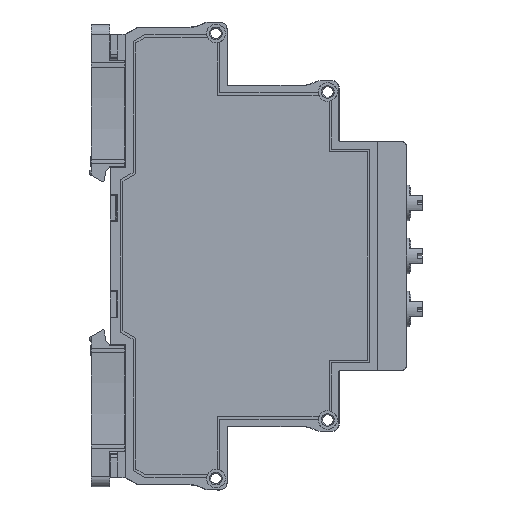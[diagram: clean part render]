
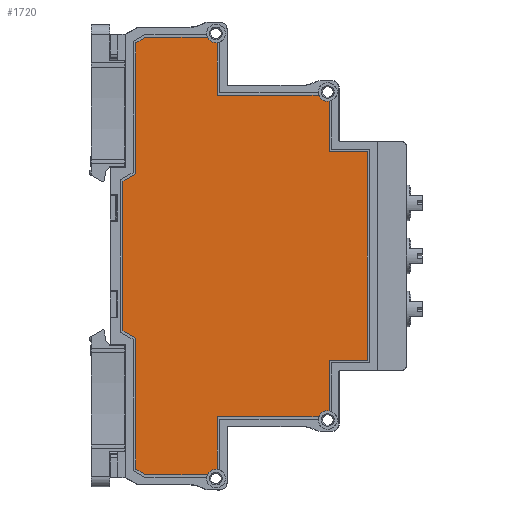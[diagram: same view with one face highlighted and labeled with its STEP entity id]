
A CAD part, front view. The second image highlights one B-rep face of the part: STEP entity #1720.
In plain terms, the highlighted planar face has unit normal (0, -1, 0) as drawn and (1, 0, 0) by its records, which use the part's own axes.
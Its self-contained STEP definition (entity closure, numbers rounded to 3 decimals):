
#1720=ADVANCED_FACE('',(#30765),#30767,.T.);
#30765=FACE_BOUND('',#30766,.T.);
#30766=EDGE_LOOP('',(#54471,#54472,#54473,#54474,#54475,#54476,#54477,#54478,#54479,
#54480,#54481,#54482,#54483,#54484,#54485,#54486,#54487,#54488,#54489,#54490,#54491,
#54492));
#30767=PLANE('',#30768);
#30768=AXIS2_PLACEMENT_3D('',#30769,#30770,#30771);
#30769=CARTESIAN_POINT('',(6.5,0.,0.));
#30770=DIRECTION('',(1.,0.,0.));
#30771=DIRECTION('',(0.,0.,-1.));
#54471=ORIENTED_EDGE('',*,*,#73263,.F.);
#54472=ORIENTED_EDGE('',*,*,#73264,.T.);
#54473=ORIENTED_EDGE('',*,*,#73181,.F.);
#54474=ORIENTED_EDGE('',*,*,#73265,.T.);
#54475=ORIENTED_EDGE('',*,*,#73266,.T.);
#54476=ORIENTED_EDGE('',*,*,#73267,.T.);
#54477=ORIENTED_EDGE('',*,*,#73268,.T.);
#54478=ORIENTED_EDGE('',*,*,#73269,.T.);
#54479=ORIENTED_EDGE('',*,*,#73165,.F.);
#54480=ORIENTED_EDGE('',*,*,#73270,.F.);
#54481=ORIENTED_EDGE('',*,*,#73271,.T.);
#54482=ORIENTED_EDGE('',*,*,#73175,.F.);
#54483=ORIENTED_EDGE('',*,*,#73272,.T.);
#54484=ORIENTED_EDGE('',*,*,#73273,.F.);
#54485=ORIENTED_EDGE('',*,*,#73274,.T.);
#54486=ORIENTED_EDGE('',*,*,#73275,.T.);
#54487=ORIENTED_EDGE('',*,*,#73276,.T.);
#54488=ORIENTED_EDGE('',*,*,#73277,.T.);
#54489=ORIENTED_EDGE('',*,*,#73278,.T.);
#54490=ORIENTED_EDGE('',*,*,#73279,.F.);
#54491=ORIENTED_EDGE('',*,*,#73280,.T.);
#54492=ORIENTED_EDGE('',*,*,#73191,.F.);
#73165=EDGE_CURVE('',#82350,#82335,#82352,.T.);
#73175=EDGE_CURVE('',#82370,#82355,#82372,.T.);
#73181=EDGE_CURVE('',#82382,#82384,#82385,.T.);
#73191=EDGE_CURVE('',#82402,#82404,#82405,.T.);
#73263=EDGE_CURVE('',#82543,#82402,#82544,.T.);
#73264=EDGE_CURVE('',#82543,#82384,#82545,.T.);
#73265=EDGE_CURVE('',#82382,#82546,#82547,.T.);
#73266=EDGE_CURVE('',#82546,#82548,#82549,.T.);
#73267=EDGE_CURVE('',#82548,#82550,#82551,.T.);
#73268=EDGE_CURVE('',#82550,#82552,#82553,.T.);
#73269=EDGE_CURVE('',#82552,#82335,#82554,.T.);
#73270=EDGE_CURVE('',#82555,#82350,#82556,.T.);
#73271=EDGE_CURVE('',#82555,#82355,#82557,.T.);
#73272=EDGE_CURVE('',#82370,#82558,#82559,.T.);
#73273=EDGE_CURVE('',#82560,#82558,#82561,.T.);
#73274=EDGE_CURVE('',#82560,#82562,#82563,.T.);
#73275=EDGE_CURVE('',#82562,#82564,#82565,.T.);
#73276=EDGE_CURVE('',#82564,#82566,#82567,.T.);
#73277=EDGE_CURVE('',#82566,#82568,#82569,.T.);
#73278=EDGE_CURVE('',#82568,#82570,#82571,.T.);
#73279=EDGE_CURVE('',#82572,#82570,#82573,.T.);
#73280=EDGE_CURVE('',#82572,#82404,#82574,.T.);
#82335=VERTEX_POINT('',#98201);
#82350=VERTEX_POINT('',#98234);
#82352=CIRCLE('',#98238,1.85);
#82355=VERTEX_POINT('',#98247);
#82370=VERTEX_POINT('',#98280);
#82372=CIRCLE('',#98284,1.85);
#82382=VERTEX_POINT('',#98308);
#82384=VERTEX_POINT('',#98312);
#82385=CIRCLE('',#98313,1.85);
#82402=VERTEX_POINT('',#98354);
#82404=VERTEX_POINT('',#98358);
#82405=CIRCLE('',#98359,1.85);
#82543=VERTEX_POINT('',#98663);
#82544=LINE('',#98664,#98665);
#82545=LINE('',#98667,#98668);
#82546=VERTEX_POINT('',#98670);
#82547=LINE('',#98671,#98672);
#82548=VERTEX_POINT('',#98674);
#82549=LINE('',#98675,#98676);
#82550=VERTEX_POINT('',#98678);
#82551=LINE('',#98679,#98680);
#82552=VERTEX_POINT('',#98682);
#82553=LINE('',#98683,#98684);
#82554=LINE('',#98686,#98687);
#82555=VERTEX_POINT('',#98689);
#82556=LINE('',#98690,#98691);
#82557=LINE('',#98693,#98694);
#82558=VERTEX_POINT('',#98696);
#82559=LINE('',#98697,#98698);
#82560=VERTEX_POINT('',#98700);
#82561=LINE('',#98701,#98702);
#82562=VERTEX_POINT('',#98704);
#82563=LINE('',#98705,#98706);
#82564=VERTEX_POINT('',#98708);
#82565=LINE('',#98709,#98710);
#82566=VERTEX_POINT('',#98712);
#82567=LINE('',#98713,#98714);
#82568=VERTEX_POINT('',#98716);
#82569=LINE('',#98717,#98718);
#82570=VERTEX_POINT('',#98720);
#82571=LINE('',#98721,#98722);
#82572=VERTEX_POINT('',#98724);
#82573=LINE('',#98725,#98726);
#82574=LINE('',#98728,#98729);
#98201=CARTESIAN_POINT('',(6.5,-30.541,38.985));
#98234=CARTESIAN_POINT('',(6.5,-31.7,37.015));
#98238=AXIS2_PLACEMENT_3D('',#98239,#98240,#98241);
#98239=CARTESIAN_POINT('',(6.5,-32.375,38.738));
#98240=DIRECTION('',(1.,0.,0.));
#98241=DIRECTION('',(0.,0.365,-0.931));
#98247=CARTESIAN_POINT('',(6.5,-42.103,16.897));
#98280=CARTESIAN_POINT('',(6.5,-43.2,14.953));
#98284=AXIS2_PLACEMENT_3D('',#98285,#98286,#98287);
#98285=CARTESIAN_POINT('',(6.5,-43.937,16.65));
#98286=DIRECTION('',(1.,0.,0.));
#98287=DIRECTION('',(0.,0.398,-0.917));
#98308=CARTESIAN_POINT('',(6.5,30.541,38.985));
#98312=CARTESIAN_POINT('',(6.5,31.7,37.015));
#98313=AXIS2_PLACEMENT_3D('',#98314,#98315,#98316);
#98314=CARTESIAN_POINT('',(6.5,32.375,38.738));
#98315=DIRECTION('',(1.,0.,0.));
#98316=DIRECTION('',(0.,-0.991,0.134));
#98354=CARTESIAN_POINT('',(6.5,42.103,16.897));
#98358=CARTESIAN_POINT('',(6.5,43.2,14.953));
#98359=AXIS2_PLACEMENT_3D('',#98360,#98361,#98362);
#98360=CARTESIAN_POINT('',(6.5,43.937,16.65));
#98361=DIRECTION('',(1.,0.,0.));
#98362=DIRECTION('',(0.,-0.991,0.134));
#98663=CARTESIAN_POINT('',(6.5,31.7,16.897));
#98664=CARTESIAN_POINT('',(6.5,31.7,16.897));
#98665=VECTOR('',#98666,1.);
#98666=DIRECTION('',(0.,1.,0.));
#98667=CARTESIAN_POINT('',(6.5,31.7,16.897));
#98668=VECTOR('',#98669,1.);
#98669=DIRECTION('',(0.,0.,1.));
#98670=CARTESIAN_POINT('',(6.5,20.6,38.985));
#98671=CARTESIAN_POINT('',(6.5,30.541,38.985));
#98672=VECTOR('',#98673,1.);
#98673=DIRECTION('',(0.,-1.,0.));
#98674=CARTESIAN_POINT('',(6.5,20.6,46.53));
#98675=CARTESIAN_POINT('',(6.5,20.6,38.985));
#98676=VECTOR('',#98677,1.);
#98677=DIRECTION('',(0.,0.,1.));
#98678=CARTESIAN_POINT('',(6.5,-20.6,46.53));
#98679=CARTESIAN_POINT('',(6.5,20.6,46.53));
#98680=VECTOR('',#98681,1.);
#98681=DIRECTION('',(0.,-1.,0.));
#98682=CARTESIAN_POINT('',(6.5,-20.6,38.985));
#98683=CARTESIAN_POINT('',(6.5,-20.6,46.53));
#98684=VECTOR('',#98685,1.);
#98685=DIRECTION('',(0.,0.,-1.));
#98686=CARTESIAN_POINT('',(6.5,-20.6,38.985));
#98687=VECTOR('',#98688,1.);
#98688=DIRECTION('',(0.,-1.,0.));
#98689=CARTESIAN_POINT('',(6.5,-31.7,16.897));
#98690=CARTESIAN_POINT('',(6.5,-31.7,16.897));
#98691=VECTOR('',#98692,1.);
#98692=DIRECTION('',(0.,0.,1.));
#98693=CARTESIAN_POINT('',(6.5,-31.7,16.897));
#98694=VECTOR('',#98695,1.);
#98695=DIRECTION('',(0.,-1.,0.));
#98696=CARTESIAN_POINT('',(6.5,-43.2,2.761));
#98697=CARTESIAN_POINT('',(6.5,-43.2,14.953));
#98698=VECTOR('',#98699,1.);
#98699=DIRECTION('',(0.,0.,-1.));
#98700=CARTESIAN_POINT('',(6.5,-42.068,0.8));
#98701=CARTESIAN_POINT('',(6.5,-42.068,0.8));
#98702=VECTOR('',#98703,1.);
#98703=DIRECTION('',(0.,-0.5,0.866));
#98704=CARTESIAN_POINT('',(6.5,-16.211,0.8));
#98705=CARTESIAN_POINT('',(6.5,-42.068,0.8));
#98706=VECTOR('',#98707,1.);
#98707=DIRECTION('',(0.,1.,0.));
#98708=CARTESIAN_POINT('',(6.5,-14.768,-1.7));
#98709=CARTESIAN_POINT('',(6.5,-16.211,0.8));
#98710=VECTOR('',#98711,1.);
#98711=DIRECTION('',(0.,0.5,-0.866));
#98712=CARTESIAN_POINT('',(6.5,14.768,-1.7));
#98713=CARTESIAN_POINT('',(6.5,-14.768,-1.7));
#98714=VECTOR('',#98715,1.);
#98715=DIRECTION('',(0.,1.,0.));
#98716=CARTESIAN_POINT('',(6.5,16.211,0.8));
#98717=CARTESIAN_POINT('',(6.5,14.768,-1.7));
#98718=VECTOR('',#98719,1.);
#98719=DIRECTION('',(0.,0.5,0.866));
#98720=CARTESIAN_POINT('',(6.5,42.068,0.8));
#98721=CARTESIAN_POINT('',(6.5,16.211,0.8));
#98722=VECTOR('',#98723,1.);
#98723=DIRECTION('',(0.,1.,0.));
#98724=CARTESIAN_POINT('',(6.5,43.2,2.761));
#98725=CARTESIAN_POINT('',(6.5,43.2,2.761));
#98726=VECTOR('',#98727,1.);
#98727=DIRECTION('',(0.,-0.5,-0.866));
#98728=CARTESIAN_POINT('',(6.5,43.2,2.761));
#98729=VECTOR('',#98730,1.);
#98730=DIRECTION('',(0.,0.,1.));
